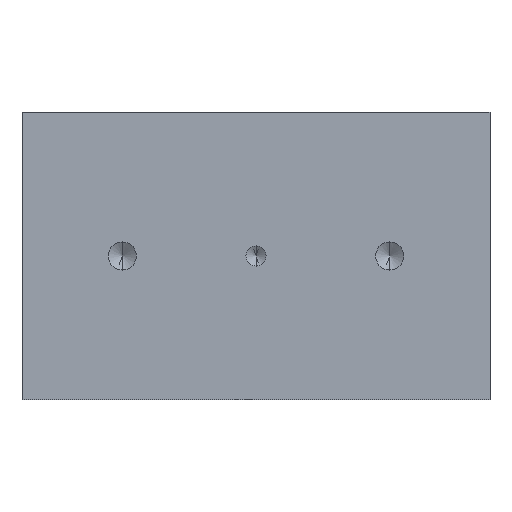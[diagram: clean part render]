
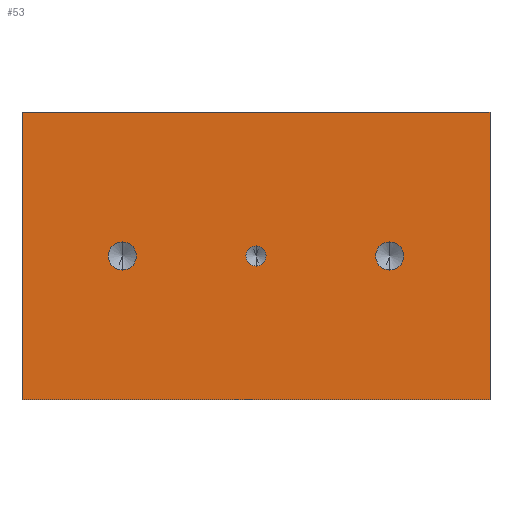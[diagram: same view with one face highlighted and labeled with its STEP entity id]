
A CAD part, front view. The second image highlights one B-rep face of the part: STEP entity #53.
In plain terms, the highlighted planar face has unit normal (0, -1, 0).
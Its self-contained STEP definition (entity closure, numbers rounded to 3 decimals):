
#53 = ADVANCED_FACE ( 'NONE', ( #656, #653, #661, #663 ), #322, .F. ) ;
#92 = AXIS2_PLACEMENT_3D ( 'NONE', #861, #859, #858 ) ;
#95 = AXIS2_PLACEMENT_3D ( 'NONE', #1171, #1172, #1175 ) ;
#113 = EDGE_CURVE ( 'NONE', #1098, #1055, #637, .T. ) ;
#125 = EDGE_CURVE ( 'NONE', #1026, #1027, #551, .T. ) ;
#145 = EDGE_CURVE ( 'NONE', #1055, #1098, #1755, .T. ) ;
#189 = ORIENTED_EDGE ( 'NONE', *, *, #113, .F. ) ;
#192 = ORIENTED_EDGE ( 'NONE', *, *, #810, .F. ) ;
#211 = ORIENTED_EDGE ( 'NONE', *, *, #826, .F. ) ;
#215 = ORIENTED_EDGE ( 'NONE', *, *, #145, .F. ) ;
#219 = ORIENTED_EDGE ( 'NONE', *, *, #125, .F. ) ;
#228 = CARTESIAN_POINT ( 'NONE',  ( 70., 0., 0. ) ) ;
#233 = DIRECTION ( 'NONE',  ( 0., 0., -1. ) ) ;
#274 = EDGE_LOOP ( 'NONE', ( #192, #211 ) ) ;
#322 = PLANE ( 'NONE',  #1799 ) ;
#323 = CARTESIAN_POINT ( 'NONE',  ( 0., 0., 43. ) ) ;
#324 = DIRECTION ( 'NONE',  ( 0., 1., 0. ) ) ;
#325 = DIRECTION ( 'NONE',  ( 0., 0., 1. ) ) ;
#465 = DIRECTION ( 'NONE',  ( 0., -1., 0. ) ) ;
#495 = DIRECTION ( 'NONE',  ( 0., 0., -1. ) ) ;
#497 = CARTESIAN_POINT ( 'NONE',  ( 35., 0., 21.5 ) ) ;
#505 = EDGE_LOOP ( 'NONE', ( #215, #189 ) ) ;
#551 = CIRCLE ( 'NONE', #95, 2.1 ) ;
#637 = CIRCLE ( 'NONE', #1789, 1.5 ) ;
#653 = FACE_BOUND ( 'NONE', #274, .T. ) ;
#656 = FACE_BOUND ( 'NONE', #505, .T. ) ;
#661 = FACE_BOUND ( 'NONE', #869, .T. ) ;
#663 = FACE_OUTER_BOUND ( 'NONE', #876, .T. ) ;
#701 = CARTESIAN_POINT ( 'NONE',  ( 35., 0., 23. ) ) ;
#810 = EDGE_CURVE ( 'NONE', #1035, #1037, #1469, .T. ) ;
#814 = EDGE_CURVE ( 'NONE', #1022, #1021, #1473, .T. ) ;
#824 = EDGE_CURVE ( 'NONE', #1021, #1066, #1488, .T. ) ;
#826 = EDGE_CURVE ( 'NONE', #1037, #1035, #1497, .T. ) ;
#828 = EDGE_CURVE ( 'NONE', #1027, #1026, #1529, .T. ) ;
#838 = EDGE_CURVE ( 'NONE', #1066, #1050, #1544, .T. ) ;
#845 = EDGE_CURVE ( 'NONE', #1050, #1022, #1556, .T. ) ;
#858 = DIRECTION ( 'NONE',  ( 0., 0., -1. ) ) ;
#859 = DIRECTION ( 'NONE',  ( 0., -1., 0. ) ) ;
#861 = CARTESIAN_POINT ( 'NONE',  ( 35., 0., 21.5 ) ) ;
#869 = EDGE_LOOP ( 'NONE', ( #219, #908 ) ) ;
#876 = EDGE_LOOP ( 'NONE', ( #898, #931, #922, #920 ) ) ;
#898 = ORIENTED_EDGE ( 'NONE', *, *, #814, .F. ) ;
#908 = ORIENTED_EDGE ( 'NONE', *, *, #828, .F. ) ;
#920 = ORIENTED_EDGE ( 'NONE', *, *, #824, .F. ) ;
#922 = ORIENTED_EDGE ( 'NONE', *, *, #838, .F. ) ;
#931 = ORIENTED_EDGE ( 'NONE', *, *, #845, .F. ) ;
#975 = CARTESIAN_POINT ( 'NONE',  ( 0., 0., 0. ) ) ;
#976 = DIRECTION ( 'NONE',  ( -1., 0., 0. ) ) ;
#995 = CARTESIAN_POINT ( 'NONE',  ( 0., 0., 43. ) ) ;
#996 = CARTESIAN_POINT ( 'NONE',  ( 0., 0., 0. ) ) ;
#1000 = CARTESIAN_POINT ( 'NONE',  ( 55., 0., 19.4 ) ) ;
#1001 = CARTESIAN_POINT ( 'NONE',  ( 55., 0., 23.6 ) ) ;
#1009 = CARTESIAN_POINT ( 'NONE',  ( 15., 0., 19.4 ) ) ;
#1021 = VERTEX_POINT ( 'NONE', #995 ) ;
#1022 = VERTEX_POINT ( 'NONE', #996 ) ;
#1026 = VERTEX_POINT ( 'NONE', #1000 ) ;
#1027 = VERTEX_POINT ( 'NONE', #1001 ) ;
#1035 = VERTEX_POINT ( 'NONE', #1009 ) ;
#1037 = VERTEX_POINT ( 'NONE', #1376 ) ;
#1050 = VERTEX_POINT ( 'NONE', #1386 ) ;
#1055 = VERTEX_POINT ( 'NONE', #1391 ) ;
#1066 = VERTEX_POINT ( 'NONE', #1402 ) ;
#1098 = VERTEX_POINT ( 'NONE', #701 ) ;
#1171 = CARTESIAN_POINT ( 'NONE',  ( 55., 0., 21.5 ) ) ;
#1172 = DIRECTION ( 'NONE',  ( 0., -1., 0. ) ) ;
#1175 = DIRECTION ( 'NONE',  ( 0., 0., -1. ) ) ;
#1205 = DIRECTION ( 'NONE',  ( 0., -1., 0. ) ) ;
#1211 = DIRECTION ( 'NONE',  ( 0., 0., -1. ) ) ;
#1376 = CARTESIAN_POINT ( 'NONE',  ( 15., 0., 23.6 ) ) ;
#1386 = CARTESIAN_POINT ( 'NONE',  ( 70., 0., 0. ) ) ;
#1391 = CARTESIAN_POINT ( 'NONE',  ( 35., 0., 20. ) ) ;
#1402 = CARTESIAN_POINT ( 'NONE',  ( 70., 0., 43. ) ) ;
#1469 = CIRCLE ( 'NONE', #1522, 2.1 ) ;
#1473 = LINE ( 'NONE', #1726, #1474 ) ;
#1474 = VECTOR ( 'NONE', #1725, 1000. ) ;
#1488 = LINE ( 'NONE', #1741, #1491 ) ;
#1491 = VECTOR ( 'NONE', #1744, 1000. ) ;
#1497 = CIRCLE ( 'NONE', #1516, 2.1 ) ;
#1515 = AXIS2_PLACEMENT_3D ( 'NONE', #1743, #1205, #1211 ) ;
#1516 = AXIS2_PLACEMENT_3D ( 'NONE', #1748, #1750, #1751 ) ;
#1522 = AXIS2_PLACEMENT_3D ( 'NONE', #1623, #1720, #1718 ) ;
#1529 = CIRCLE ( 'NONE', #1515, 2.1 ) ;
#1544 = LINE ( 'NONE', #228, #1545 ) ;
#1545 = VECTOR ( 'NONE', #233, 1000. ) ;
#1556 = LINE ( 'NONE', #975, #1557 ) ;
#1557 = VECTOR ( 'NONE', #976, 1000. ) ;
#1623 = CARTESIAN_POINT ( 'NONE',  ( 15., 0., 21.5 ) ) ;
#1718 = DIRECTION ( 'NONE',  ( 0., 0., -1. ) ) ;
#1720 = DIRECTION ( 'NONE',  ( 0., -1., 0. ) ) ;
#1725 = DIRECTION ( 'NONE',  ( 0., 0., 1. ) ) ;
#1726 = CARTESIAN_POINT ( 'NONE',  ( 0., 0., 0. ) ) ;
#1741 = CARTESIAN_POINT ( 'NONE',  ( 0., 0., 43. ) ) ;
#1743 = CARTESIAN_POINT ( 'NONE',  ( 55., 0., 21.5 ) ) ;
#1744 = DIRECTION ( 'NONE',  ( 1., 0., 0. ) ) ;
#1748 = CARTESIAN_POINT ( 'NONE',  ( 15., 0., 21.5 ) ) ;
#1750 = DIRECTION ( 'NONE',  ( 0., -1., 0. ) ) ;
#1751 = DIRECTION ( 'NONE',  ( 0., 0., -1. ) ) ;
#1755 = CIRCLE ( 'NONE', #92, 1.5 ) ;
#1789 = AXIS2_PLACEMENT_3D ( 'NONE', #497, #465, #495 ) ;
#1799 = AXIS2_PLACEMENT_3D ( 'NONE', #323, #324, #325 ) ;
